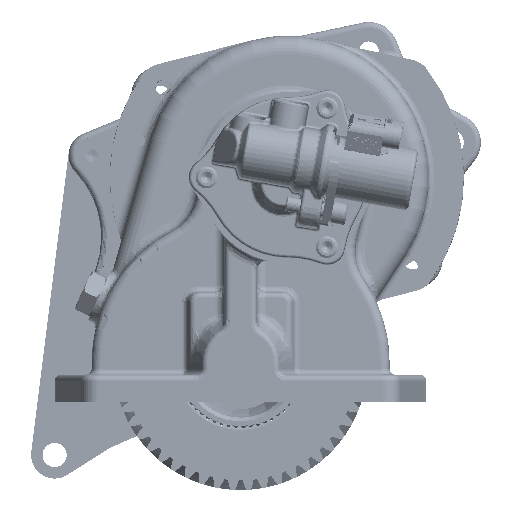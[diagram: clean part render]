
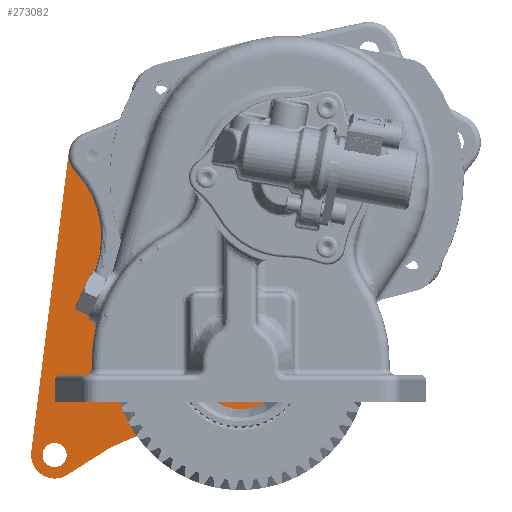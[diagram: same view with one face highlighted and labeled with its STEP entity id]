
A CAD part, left-side view. The second image highlights one B-rep face of the part: STEP entity #273082.
In plain terms, the highlighted planar face has unit normal (-1, 0, 0) as drawn and (0, 0, -1) by its records, which use the part's own axes.
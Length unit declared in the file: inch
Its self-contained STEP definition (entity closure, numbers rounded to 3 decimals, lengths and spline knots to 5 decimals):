
#272748=CARTESIAN_POINT('',(-7.1235,0.96032,0.5));
#272749=VERTEX_POINT('',#272748);
#272750=CARTESIAN_POINT('',(-7.3795,0.96032,0.5));
#272751=DIRECTION('',(0.0,0.0,1.0));
#272752=DIRECTION('',(-1.0,0.0,0.0));
#272753=AXIS2_PLACEMENT_3D('',#272750,#272751,#272752);
#272754=CIRCLE('',#272753,0.256);
#272755=EDGE_CURVE('',#272749,#272749,#272754,.T.);
#272768=CARTESIAN_POINT('',(-7.07774,-1.26316,0.5));
#272769=VERTEX_POINT('',#272768);
#272770=CARTESIAN_POINT('',(-7.33374,-1.26316,0.5));
#272771=DIRECTION('',(0.0,0.0,1.0));
#272772=DIRECTION('',(-1.0,0.0,0.0));
#272773=AXIS2_PLACEMENT_3D('',#272770,#272771,#272772);
#272774=CIRCLE('',#272773,0.256);
#272775=EDGE_CURVE('',#272769,#272769,#272774,.T.);
#272788=CARTESIAN_POINT('',(-6.51149,3.09522,0.5));
#272789=VERTEX_POINT('',#272788);
#272790=CARTESIAN_POINT('',(-6.76749,3.09522,0.5));
#272791=DIRECTION('',(0.0,0.0,1.0));
#272792=DIRECTION('',(-1.0,0.0,0.0));
#272793=AXIS2_PLACEMENT_3D('',#272790,#272791,#272792);
#272794=CIRCLE('',#272793,0.256);
#272795=EDGE_CURVE('',#272789,#272789,#272794,.T.);
#272808=CARTESIAN_POINT('',(-9.92961,1.00156,0.5));
#272809=VERTEX_POINT('',#272808);
#272810=CARTESIAN_POINT('',(-10.17961,1.00156,0.5));
#272811=DIRECTION('',(0.0,0.0,1.0));
#272812=DIRECTION('',(-1.0,0.0,0.0));
#272813=AXIS2_PLACEMENT_3D('',#272810,#272811,#272812);
#272814=CIRCLE('',#272813,0.25);
#272815=EDGE_CURVE('',#272809,#272809,#272814,.T.);
#272828=CARTESIAN_POINT('',(-12.55461,1.00156,0.5));
#272829=VERTEX_POINT('',#272828);
#272830=CARTESIAN_POINT('',(-12.80461,1.00156,0.5));
#272831=DIRECTION('',(0.0,0.0,1.0));
#272832=DIRECTION('',(-1.0,0.0,0.0));
#272833=AXIS2_PLACEMENT_3D('',#272830,#272831,#272832);
#272834=CIRCLE('',#272833,0.25);
#272835=EDGE_CURVE('',#272829,#272829,#272834,.T.);
#272846=CARTESIAN_POINT('',(-6.31279,2.88726,0.5));
#272847=VERTEX_POINT('',#272846);
#272854=CARTESIAN_POINT('',(-6.93131,3.56762,0.5));
#272855=VERTEX_POINT('',#272854);
#272856=CARTESIAN_POINT('',(-6.76749,3.09522,0.5));
#272857=DIRECTION('',(0.0,0.0,-1.));
#272858=DIRECTION('',(-0.909,0.416,0.0));
#272859=AXIS2_PLACEMENT_3D('',#272856,#272857,#272858);
#272860=CIRCLE('',#272859,0.5);
#272861=EDGE_CURVE('',#272855,#272847,#272860,.T.);
#272878=CARTESIAN_POINT('',(-6.84099,-1.17829,0.5));
#272879=VERTEX_POINT('',#272878);
#272886=CARTESIAN_POINT('',(0.0,0.0,0.5));
#272887=DIRECTION('',(0.0,0.0,1.0));
#272888=DIRECTION('',(-0.909,0.416,0.0));
#272889=AXIS2_PLACEMENT_3D('',#272886,#272887,#272888);
#272890=CIRCLE('',#272889,6.94173);
#272891=EDGE_CURVE('',#272847,#272879,#272890,.T.);
#272903=CARTESIAN_POINT('',(-7.74065,-1.55371,0.5));
#272904=VERTEX_POINT('',#272903);
#272911=CARTESIAN_POINT('',(-7.33374,-1.26316,0.5));
#272912=DIRECTION('',(0.0,0.0,-1.0));
#272913=DIRECTION('',(0.814,0.581,0.0));
#272914=AXIS2_PLACEMENT_3D('',#272911,#272912,#272913);
#272915=CIRCLE('',#272914,0.5);
#272916=EDGE_CURVE('',#272879,#272904,#272915,.T.);
#272928=CARTESIAN_POINT('',(-9.05865,0.29211,0.5));
#272929=VERTEX_POINT('',#272928);
#272936=CARTESIAN_POINT('',(-7.74065,-1.55371,0.5));
#272937=DIRECTION('',(-0.581,0.814,0.0));
#272938=VECTOR('',#272937,2.26808);
#272939=LINE('',#272936,#272938);
#272940=EDGE_CURVE('',#272904,#272929,#272939,.T.);
#272952=CARTESIAN_POINT('',(-9.46556,0.50156,0.5));
#272953=VERTEX_POINT('',#272952);
#272960=CARTESIAN_POINT('',(-9.46556,0.00156,0.5));
#272961=DIRECTION('',(0.0,0.0,1.));
#272962=DIRECTION('',(0.814,0.581,0.0));
#272963=AXIS2_PLACEMENT_3D('',#272960,#272961,#272962);
#272964=CIRCLE('',#272963,0.5);
#272965=EDGE_CURVE('',#272929,#272953,#272964,.T.);
#272977=CARTESIAN_POINT('',(-12.80461,0.50156,0.5));
#272978=VERTEX_POINT('',#272977);
#272985=CARTESIAN_POINT('',(-9.46556,0.50156,0.5));
#272986=DIRECTION('',(-1.0,0.0,0.0));
#272987=VECTOR('',#272986,3.33904);
#272988=LINE('',#272985,#272987);
#272989=EDGE_CURVE('',#272953,#272978,#272988,.T.);
#273001=CARTESIAN_POINT('',(-12.96844,1.47395,0.5));
#273002=VERTEX_POINT('',#273001);
#273009=CARTESIAN_POINT('',(-12.80461,1.00156,0.5));
#273010=DIRECTION('',(0.0,0.0,-1.0));
#273011=DIRECTION('',(0.328,-0.945,0.0));
#273012=AXIS2_PLACEMENT_3D('',#273009,#273010,#273011);
#273013=CIRCLE('',#273012,0.5);
#273014=EDGE_CURVE('',#272978,#273002,#273013,.T.);
#273027=CARTESIAN_POINT('',(-12.96844,1.47395,0.5));
#273028=DIRECTION('',(0.945,0.328,0.0));
#273029=VECTOR('',#273028,6.38986);
#273030=LINE('',#273027,#273029);
#273031=EDGE_CURVE('',#273002,#272855,#273030,.T.);
#273052=CARTESIAN_POINT('',(-9.14989,1.13505,0.5));
#273053=DIRECTION('',(0.0,0.0,1.0));
#273054=DIRECTION('',(1.0,0.0,0.0));
#273055=AXIS2_PLACEMENT_3D('',#273052,#273053,#273054);
#273056=PLANE('',#273055);
#273057=ORIENTED_EDGE('',*,*,#273031,.T.);
#273058=ORIENTED_EDGE('',*,*,#272861,.T.);
#273059=ORIENTED_EDGE('',*,*,#272891,.T.);
#273060=ORIENTED_EDGE('',*,*,#272916,.T.);
#273061=ORIENTED_EDGE('',*,*,#272940,.T.);
#273062=ORIENTED_EDGE('',*,*,#272965,.T.);
#273063=ORIENTED_EDGE('',*,*,#272989,.T.);
#273064=ORIENTED_EDGE('',*,*,#273014,.T.);
#273065=EDGE_LOOP('',(#273057,#273058,#273059,#273060,#273061,#273062,#273063,#273064));
#273066=FACE_OUTER_BOUND('',#273065,.T.);
#273067=ORIENTED_EDGE('',*,*,#272755,.T.);
#273068=EDGE_LOOP('',(#273067));
#273069=FACE_BOUND('',#273068,.T.);
#273070=ORIENTED_EDGE('',*,*,#272775,.T.);
#273071=EDGE_LOOP('',(#273070));
#273072=FACE_BOUND('',#273071,.T.);
#273073=ORIENTED_EDGE('',*,*,#272795,.T.);
#273074=EDGE_LOOP('',(#273073));
#273075=FACE_BOUND('',#273074,.T.);
#273076=ORIENTED_EDGE('',*,*,#272815,.T.);
#273077=EDGE_LOOP('',(#273076));
#273078=FACE_BOUND('',#273077,.T.);
#273079=ORIENTED_EDGE('',*,*,#272835,.T.);
#273080=EDGE_LOOP('',(#273079));
#273081=FACE_BOUND('',#273080,.T.);
#273082=ADVANCED_FACE('',(#273066,#273069,#273072,#273075,#273078,#273081),#273056,.F.);
